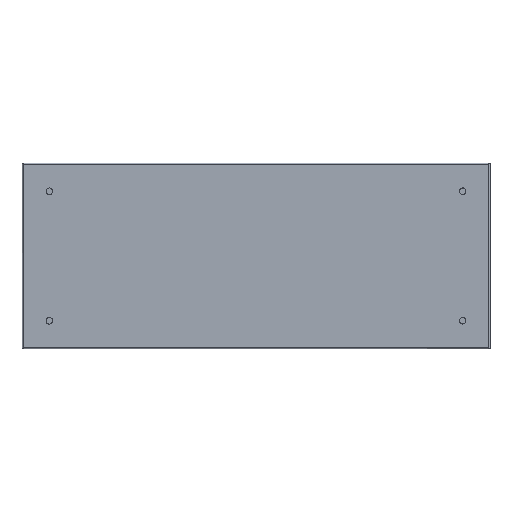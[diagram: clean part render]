
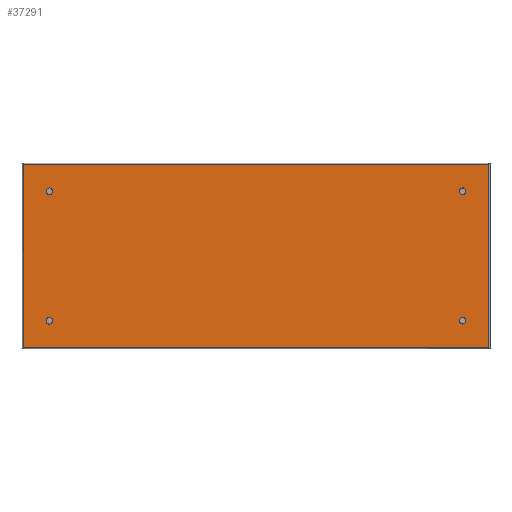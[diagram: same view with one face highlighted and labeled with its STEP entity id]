
A CAD part, top view. The second image highlights one B-rep face of the part: STEP entity #37291.
In plain terms, the highlighted planar face has unit normal (0, 0, 1).
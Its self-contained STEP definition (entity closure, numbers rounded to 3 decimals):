
#31486=CARTESIAN_POINT(' ',(991.7,392.7,0.));
#31487=VERTEX_POINT(' ',#31486);
#32271=CARTESIAN_POINT(' ',(991.7,2.3,0.));
#32272=VERTEX_POINT(' ',#32271);
#33236=CARTESIAN_POINT(' ',(991.7,392.7,0.));
#33241=DIRECTION(' ',(0.,-1.,0.));
#33246=VECTOR(' ',#33241,1.);
#33251=LINE('',#33236,#33246);
#33256=EDGE_CURVE(' ',#31487,#32272,#33251,.T.);
#35326=CARTESIAN_POINT(' ',(2.3,2.3,0.));
#35327=VERTEX_POINT(' ',#35326);
#35921=CARTESIAN_POINT(' ',(2.3,392.7,0.));
#35922=VERTEX_POINT(' ',#35921);
#37161=DIRECTION(' ',(-0.,-0.,1.));
#37166=CARTESIAN_POINT(' ',(991.7,2.3,0.));
#37171=DIRECTION(' ',(0.,1.,0.));
#37176=AXIS2_PLACEMENT_3D(' ',#37166,#37161,#37171);
#37181=PLANE('NONE',#37176);
#37186=CARTESIAN_POINT(' ',(2.3,2.3,0.));
#37191=DIRECTION(' ',(1.,0.,0.));
#37196=VECTOR(' ',#37191,1.);
#37201=LINE('',#37186,#37196);
#37206=EDGE_CURVE(' ',#35327,#32272,#37201,.T.);
#37211=ORIENTED_EDGE(' ',*,*,#37206,.T.);
#37216=ORIENTED_EDGE(' ',*,*,#33256,.F.);
#37221=CARTESIAN_POINT(' ',(991.7,392.7,0.));
#37226=DIRECTION(' ',(-1.,0.,0.));
#37231=VECTOR(' ',#37226,1.);
#37236=LINE('',#37221,#37231);
#37241=EDGE_CURVE(' ',#31487,#35922,#37236,.T.);
#37246=ORIENTED_EDGE(' ',*,*,#37241,.T.);
#37251=CARTESIAN_POINT(' ',(2.3,392.7,0.));
#37256=DIRECTION(' ',(0.,-1.,0.));
#37261=VECTOR(' ',#37256,1.);
#37266=LINE('',#37251,#37261);
#37271=EDGE_CURVE(' ',#35922,#35327,#37266,.T.);
#37276=ORIENTED_EDGE(' ',*,*,#37271,.T.);
#37281=EDGE_LOOP(' ',(#37211,#37216,#37246,#37276));
#37286=FACE_OUTER_BOUND(' ',#37281,.T.);
#37291=ADVANCED_FACE('NONE',(#37286),#37181,.T.);
